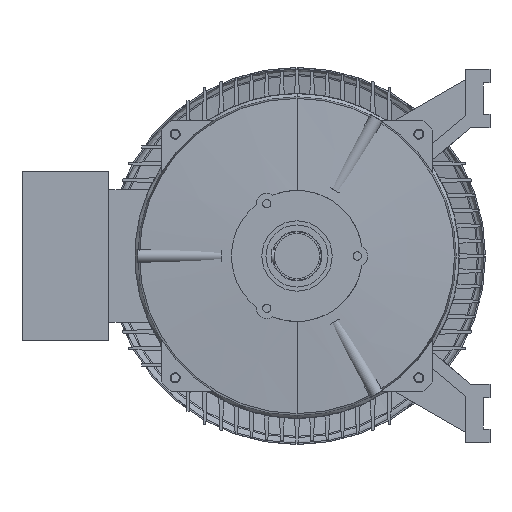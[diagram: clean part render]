
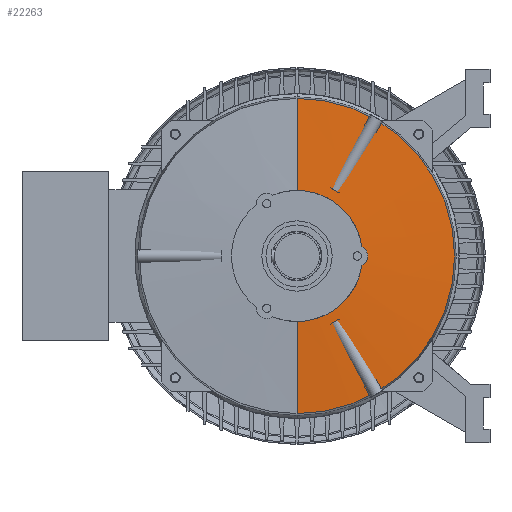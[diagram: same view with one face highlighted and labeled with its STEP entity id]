
A CAD part, left-side view. The second image highlights one B-rep face of the part: STEP entity #22263.
In plain terms, the highlighted conical face has half-angle 87 degrees and reference radius 228.668 mm.
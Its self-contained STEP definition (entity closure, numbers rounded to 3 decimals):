
#1023 = ORIENTED_EDGE ( 'NONE', *, *, #17408, .T. ) ;
#1036 = ORIENTED_EDGE ( 'NONE', *, *, #17404, .T. ) ;
#1038 = ORIENTED_EDGE ( 'NONE', *, *, #17364, .T. ) ;
#1043 = ORIENTED_EDGE ( 'NONE', *, *, #19584, .T. ) ;
#1048 = ORIENTED_EDGE ( 'NONE', *, *, #18653, .T. ) ;
#1066 = ORIENTED_EDGE ( 'NONE', *, *, #18648, .T. ) ;
#1079 = ORIENTED_EDGE ( 'NONE', *, *, #19540, .F. ) ;
#1532 = CARTESIAN_POINT ( 'NONE',  ( 12.005, 0., 0. ) ) ;
#1544 = DIRECTION ( 'NONE',  ( -1., 0., 0. ) ) ;
#1560 = DIRECTION ( 'NONE',  ( 0., 0., -1. ) ) ;
#1601 = CARTESIAN_POINT ( 'NONE',  ( 5., 0., 0. ) ) ;
#1602 = CARTESIAN_POINT ( 'NONE',  ( 5.306, -100.564, 7.379 ) ) ;
#1603 = CARTESIAN_POINT ( 'NONE',  ( 5.358, -101.721, 4.822 ) ) ;
#1604 = CARTESIAN_POINT ( 'NONE',  ( 5.375, -102.106, 3.484 ) ) ;
#1605 = CARTESIAN_POINT ( 'NONE',  ( 5.382, -102.253, 2.801 ) ) ;
#1606 = CARTESIAN_POINT ( 'NONE',  ( 5.39, -102.438, 1.405 ) ) ;
#1607 = CARTESIAN_POINT ( 'NONE',  ( 5.393, -102.488, 0.704 ) ) ;
#1608 = CARTESIAN_POINT ( 'NONE',  ( 5.393, -102.5, 0.354 ) ) ;
#1609 = CARTESIAN_POINT ( 'NONE',  ( 5.393, -102.5, -0.692 ) ) ;
#1613 = CARTESIAN_POINT ( 'NONE',  ( 5.272, -99.833, 8.567 ) ) ;
#1615 = CARTESIAN_POINT ( 'NONE',  ( 5.189, -98.028, 10.708 ) ) ;
#1616 = CARTESIAN_POINT ( 'NONE',  ( 5.212, -98.522, 10.198 ) ) ;
#1617 = CARTESIAN_POINT ( 'NONE',  ( 5.328, -101.051, 6.442 ) ) ;
#1618 = CARTESIAN_POINT ( 'NONE',  ( 5.389, -102.401, 1.757 ) ) ;
#1620 = CARTESIAN_POINT ( 'NONE',  ( 5.391, -102.452, -1.387 ) ) ;
#1621 = CARTESIAN_POINT ( 'NONE',  ( 5.384, -102.307, -2.425 ) ) ;
#1627 = DIRECTION ( 'NONE',  ( 0., 0., -1. ) ) ;
#1629 = DIRECTION ( 'NONE',  ( 1., 0., 0. ) ) ;
#1633 = CARTESIAN_POINT ( 'NONE',  ( 5.116, -96.462, 12.11 ) ) ;
#1643 = CARTESIAN_POINT ( 'NONE',  ( 5., -94.036, 13.501 ) ) ;
#1644 = CARTESIAN_POINT ( 'NONE',  ( 5.061, -95.306, 12.886 ) ) ;
#1645 = CARTESIAN_POINT ( 'NONE',  ( 5.254, -99.422, 9.129 ) ) ;
#1646 = CARTESIAN_POINT ( 'NONE',  ( 5.298, -100.389, 7.681 ) ) ;
#1647 = CARTESIAN_POINT ( 'NONE',  ( 5.321, -100.895, 6.76 ) ) ;
#1648 = CARTESIAN_POINT ( 'NONE',  ( 5.347, -101.482, 5.478 ) ) ;
#1655 = CARTESIAN_POINT ( 'NONE',  ( 5.19, -98.047, -10.689 ) ) ;
#1661 = CARTESIAN_POINT ( 'NONE',  ( 5.382, -102.246, -2.77 ) ) ;
#1663 = CARTESIAN_POINT ( 'NONE',  ( 5.273, -99.841, -8.555 ) ) ;
#1665 = CARTESIAN_POINT ( 'NONE',  ( 5.375, -102.1, -3.459 ) ) ;
#1666 = CARTESIAN_POINT ( 'NONE',  ( 5.254, -99.428, -9.122 ) ) ;
#1667 = CARTESIAN_POINT ( 'NONE',  ( 5.141, -97.006, -11.625 ) ) ;
#1668 = CARTESIAN_POINT ( 'NONE',  ( 5.35, -101.53, -5.488 ) ) ;
#1669 = CARTESIAN_POINT ( 'NONE',  ( 5., -94.036, -13.501 ) ) ;
#1683 = CARTESIAN_POINT ( 'NONE',  ( 5.115, -96.446, -12.061 ) ) ;
#1685 = CARTESIAN_POINT ( 'NONE',  ( 5.06, -95.28, -12.844 ) ) ;
#1689 = CARTESIAN_POINT ( 'NONE',  ( 5.371, -102.014, -3.803 ) ) ;
#1690 = CARTESIAN_POINT ( 'NONE',  ( 5.212, -98.531, -10.188 ) ) ;
#1694 = CARTESIAN_POINT ( 'NONE',  ( 5.324, -100.964, -6.761 ) ) ;
#1696 = CARTESIAN_POINT ( 'NONE',  ( 5.031, -94.671, -13.194 ) ) ;
#3643 = CARTESIAN_POINT ( 'NONE',  ( 5., -94.036, -13.501 ) ) ;
#4241 = CARTESIAN_POINT ( 'NONE',  ( 5., 0., 95. ) ) ;
#5991 = FACE_OUTER_BOUND ( 'NONE', #14189, .T. ) ;
#5997 = CONICAL_SURFACE ( 'NONE', #18825, 228.668, 1.518 ) ;
#9568 = DIRECTION ( 'NONE',  ( 0., 0., -1. ) ) ;
#9582 = CARTESIAN_POINT ( 'NONE',  ( 12.005, 0., 0. ) ) ;
#9597 = DIRECTION ( 'NONE',  ( 1., 0., 0. ) ) ;
#10674 = CARTESIAN_POINT ( 'NONE',  ( 12.005, 0., 228.668 ) ) ;
#10684 = DIRECTION ( 'NONE',  ( 0.052, 0., 0.999 ) ) ;
#10960 = DIRECTION ( 'NONE',  ( 0.052, 0., -0.999 ) ) ;
#10991 = CARTESIAN_POINT ( 'NONE',  ( 12.005, 0., -228.668 ) ) ;
#13309 = CIRCLE ( 'NONE', #21005, 95. ) ;
#13354 = CIRCLE ( 'NONE', #21110, 228.668 ) ;
#13591 = CARTESIAN_POINT ( 'NONE',  ( 12.005, 0., -228.668 ) ) ;
#13621 = CARTESIAN_POINT ( 'NONE',  ( 5., 0., -95. ) ) ;
#13625 = CARTESIAN_POINT ( 'NONE',  ( 12.005, 0., 228.668 ) ) ;
#13627 = CARTESIAN_POINT ( 'NONE',  ( 5., -94.036, 13.501 ) ) ;
#13655 = CARTESIAN_POINT ( 'NONE',  ( 12.005, -228.668, 0. ) ) ;
#14189 = EDGE_LOOP ( 'NONE', ( #1079, #1066, #1023, #1036, #1043, #1038, #1048 ) ) ;
#14861 = VERTEX_POINT ( 'NONE', #3643 ) ;
#16330 = VERTEX_POINT ( 'NONE', #4241 ) ;
#17364 = EDGE_CURVE ( 'NONE', #22950, #22933, #23553, .T. ) ;
#17404 = EDGE_CURVE ( 'NONE', #14861, #22932, #23627, .T. ) ;
#17408 = EDGE_CURVE ( 'NONE', #22917, #14861, #21630, .T. ) ;
#18648 = EDGE_CURVE ( 'NONE', #16330, #22917, #13309, .T. ) ;
#18653 = EDGE_CURVE ( 'NONE', #22933, #22929, #13354, .T. ) ;
#18825 = AXIS2_PLACEMENT_3D ( 'NONE', #9582, #9597, #9568 ) ;
#19540 = EDGE_CURVE ( 'NONE', #16330, #22929, #26925, .T. ) ;
#19584 = EDGE_CURVE ( 'NONE', #22932, #22950, #27027, .T. ) ;
#20649 = AXIS2_PLACEMENT_3D ( 'NONE', #1532, #1544, #1560 ) ;
#20726 = AXIS2_PLACEMENT_3D ( 'NONE', #1601, #1629, #1627 ) ;
#21005 = AXIS2_PLACEMENT_3D ( 'NONE', #25666, #25633, #25659 ) ;
#21110 = AXIS2_PLACEMENT_3D ( 'NONE', #25677, #25638, #25640 ) ;
#21630 = B_SPLINE_CURVE_WITH_KNOTS ( 'NONE', 3,
 ( #1643, #1644, #1633, #1615, #1616, #1645, #1613, #1646, #1602, #1647, #1617, #1648, #1603, #1604, #1605, #1618, #1606, #1607, #1608, #1609, #1620, #1621, #1661, #1665, #1689, #1668, #1694, #1663, #1666, #1690, #1655, #1667, #1683, #1685, #1696, #1669 ),
 .UNSPECIFIED., .F., .F.,
 ( 4, 2, 2, 2, 2, 2, 2, 2, 2, 2, 2, 2, 2, 2, 2, 2, 2, 4 ),
 ( 0., 0.004, 0.006, 0.008, 0.009, 0.01, 0.013, 0.015, 0.016, 0.017, 0.019, 0.02, 0.021, 0.025, 0.027, 0.029, 0.031, 0.033 ),
 .UNSPECIFIED. ) ;
#22263 = ADVANCED_FACE ( 'NONE', ( #5991 ), #5997, .T. ) ;
#22917 = VERTEX_POINT ( 'NONE', #13627 ) ;
#22929 = VERTEX_POINT ( 'NONE', #13625 ) ;
#22932 = VERTEX_POINT ( 'NONE', #13621 ) ;
#22933 = VERTEX_POINT ( 'NONE', #13655 ) ;
#22950 = VERTEX_POINT ( 'NONE', #13591 ) ;
#23553 = CIRCLE ( 'NONE', #20649, 228.668 ) ;
#23627 = CIRCLE ( 'NONE', #20726, 95. ) ;
#25633 = DIRECTION ( 'NONE',  ( 1., 0., 0. ) ) ;
#25638 = DIRECTION ( 'NONE',  ( -1., 0., 0. ) ) ;
#25640 = DIRECTION ( 'NONE',  ( 0., 0., -1. ) ) ;
#25659 = DIRECTION ( 'NONE',  ( 0., 0., -1. ) ) ;
#25666 = CARTESIAN_POINT ( 'NONE',  ( 5., 0., 0. ) ) ;
#25677 = CARTESIAN_POINT ( 'NONE',  ( 12.005, 0., 0. ) ) ;
#26925 = LINE ( 'NONE', #10674, #26939 ) ;
#26939 = VECTOR ( 'NONE', #10684, 1000. ) ;
#27027 = LINE ( 'NONE', #10991, #27030 ) ;
#27030 = VECTOR ( 'NONE', #10960, 1000. ) ;
